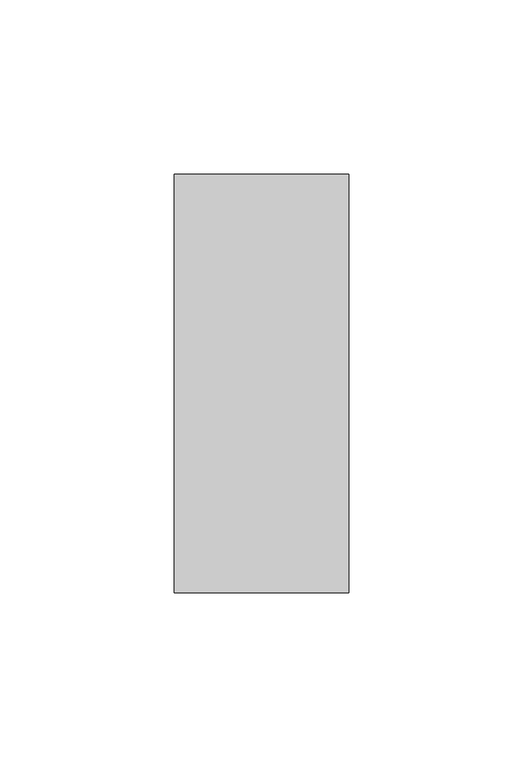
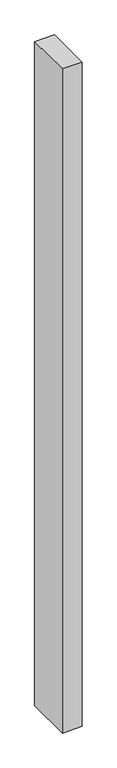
"""IFC4 building model written with IfcOpenShell, lengths in millimetres: member geometry, Прямоугольный импост : 50х120 мм."""

from ifc_helpers import new_model, si_unit, frame, origin, place, context, project, spatial, polyline, outline, extrude, source, transform, mapped, element, save


def member_65f3ab26(model_context):
    return source(origin(), model_context, "Body", "SweptSolid", [
        extrude(outline(polyline([(0.0, 60.0), (0.0, -60.0), (-50.0, -60.0), (-50.0, 60.0), (0.0, 60.0)])), frame((0.0, 0.0, -1761.1329034), z_axis=(0.0, 0.0, 1.0), x_axis=(1.0, 0.0, 0.0)), (0.0, 0.0, 1.0), 1761.1329034),
    ])


if __name__ == "__main__":
    model = new_model("IFC4")
    model_context = context("Model", 3, world=origin())
    ifc_project = project(units=[si_unit("LENGTHUNIT", "METRE", prefix="MILLI")], contexts=[model_context])
    site = spatial("IfcSite", under=ifc_project)
    building = spatial("IfcBuilding", under=site)
    placement = place(None, origin())
    member_shape = member_65f3ab26(model_context)
    element("IfcMember", 1, ObjectType="Прямоугольный импост : 50х120 мм", at=placement, inside=building, context=model_context, shape_type="MappedRepresentation", body=[
        mapped(member_shape, transform((0.0, 0.0, 0.0), x_axis=(1.0, 0.0, 0.0), y_axis=(0.0, 1.0, 0.0), z_axis=(0.0, 0.0, 1.0))),
    ])
    save(model, "model.ifc")
